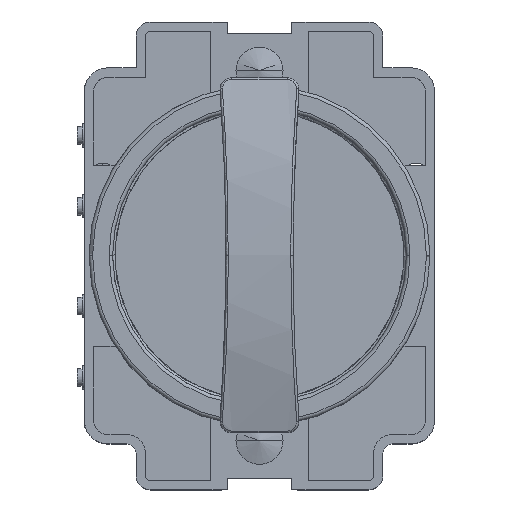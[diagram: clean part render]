
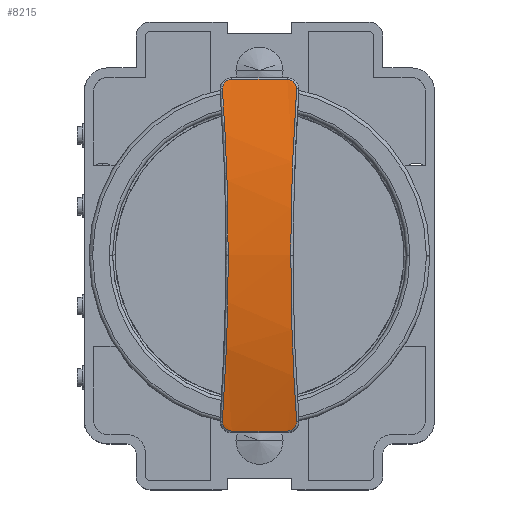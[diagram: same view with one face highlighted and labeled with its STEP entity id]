
A CAD part, top view. The second image highlights one B-rep face of the part: STEP entity #8215.
In plain terms, the highlighted cylindrical face has radius 51.954 mm (diameter 103.909 mm), a partial arc.
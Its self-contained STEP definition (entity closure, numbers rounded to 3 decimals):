
#5410=CARTESIAN_POINT('',(12.033,-14.159,
-3.16));
#5411=CARTESIAN_POINT('',(12.011,-14.237,
-3.158));
#5412=CARTESIAN_POINT('',(11.97,-14.383,
-3.137));
#5413=CARTESIAN_POINT('',(11.914,-14.574,
-3.053));
#5414=CARTESIAN_POINT('',(11.864,-14.743,
-2.917));
#5415=CARTESIAN_POINT('',(11.829,-14.862,
-2.755));
#5416=CARTESIAN_POINT('',(11.805,-14.941,
-2.558));
#5417=CARTESIAN_POINT('',(11.801,-14.957,
-2.427));
#5418=CARTESIAN_POINT('',(11.801,-14.957,
-2.36));
#5420=CARTESIAN_POINT('',(11.801,-14.957,2.36));
#5421=CARTESIAN_POINT('',(11.801,-14.957,2.408));
#5422=CARTESIAN_POINT('',(11.804,-14.946,2.522));
#5423=CARTESIAN_POINT('',(11.82,-14.893,2.692));
#5424=CARTESIAN_POINT('',(11.85,-14.791,2.86));
#5425=CARTESIAN_POINT('',(11.892,-14.651,2.998));
#5426=CARTESIAN_POINT('',(11.941,-14.48,3.1));
#5427=CARTESIAN_POINT('',(11.99,-14.312,3.15));
#5428=CARTESIAN_POINT('',(12.021,-14.203,3.16));
#5429=CARTESIAN_POINT('',(12.033,-14.16,3.16));
#5431=CARTESIAN_POINT('',(12.033,-14.16,3.16));
#5432=CARTESIAN_POINT('',(12.359,-13.01,3.078));
#5433=CARTESIAN_POINT('',(12.931,-10.688,2.934));
#5434=CARTESIAN_POINT('',(13.547,-7.153,2.779));
#5435=CARTESIAN_POINT('',(13.918,-3.584,2.684));
#5436=CARTESIAN_POINT('',(14.,-1.195,2.663));
#5437=CARTESIAN_POINT('',(14.,0.,2.662));
#5439=CARTESIAN_POINT('',(14.,0.,2.662));
#5440=CARTESIAN_POINT('',(14.,1.194,2.663));
#5441=CARTESIAN_POINT('',(13.918,3.584,2.685));
#5442=CARTESIAN_POINT('',(13.547,7.153,2.779));
#5443=CARTESIAN_POINT('',(12.931,10.688,2.935));
#5444=CARTESIAN_POINT('',(12.359,13.01,3.078));
#5445=CARTESIAN_POINT('',(12.033,14.159,3.16));
#5447=CARTESIAN_POINT('',(12.033,14.159,3.16));
#5448=CARTESIAN_POINT('',(12.011,14.237,3.158));
#5449=CARTESIAN_POINT('',(11.97,14.383,3.137));
#5450=CARTESIAN_POINT('',(11.914,14.574,3.053));
#5451=CARTESIAN_POINT('',(11.864,14.743,2.917));
#5452=CARTESIAN_POINT('',(11.829,14.862,2.755));
#5453=CARTESIAN_POINT('',(11.805,14.941,2.558));
#5454=CARTESIAN_POINT('',(11.801,14.957,2.427));
#5455=CARTESIAN_POINT('',(11.801,14.957,2.36));
#5457=CARTESIAN_POINT('',(11.801,14.957,-2.36));
#5458=CARTESIAN_POINT('',(11.801,14.957,-2.408));
#5459=CARTESIAN_POINT('',(11.804,14.946,-2.522));
#5460=CARTESIAN_POINT('',(11.82,14.893,-2.692));
#5461=CARTESIAN_POINT('',(11.85,14.791,-2.86));
#5462=CARTESIAN_POINT('',(11.892,14.651,-2.998));
#5463=CARTESIAN_POINT('',(11.941,14.48,-3.1));
#5464=CARTESIAN_POINT('',(11.99,14.312,-3.15));
#5465=CARTESIAN_POINT('',(12.021,14.203,-3.16));
#5466=CARTESIAN_POINT('',(12.033,14.16,-3.16));
#5468=CARTESIAN_POINT('',(12.033,14.16,-3.16));
#5469=CARTESIAN_POINT('',(12.359,13.01,-3.078));
#5470=CARTESIAN_POINT('',(12.931,10.688,-2.934));
#5471=CARTESIAN_POINT('',(13.547,7.153,-2.779));
#5472=CARTESIAN_POINT('',(13.918,3.584,-2.684));
#5473=CARTESIAN_POINT('',(14.,1.195,-2.663));
#5474=CARTESIAN_POINT('',(14.,0.,
-2.662));
#5476=CARTESIAN_POINT('',(14.,0.,
-2.662));
#5477=CARTESIAN_POINT('',(14.,-1.194,
-2.663));
#5478=CARTESIAN_POINT('',(13.918,-3.584,
-2.685));
#5479=CARTESIAN_POINT('',(13.547,-7.153,
-2.779));
#5480=CARTESIAN_POINT('',(12.931,-10.687,
-2.935));
#5481=CARTESIAN_POINT('',(12.359,-13.009,
-3.078));
#5482=CARTESIAN_POINT('',(12.033,-14.159,
-3.16));
#5523=DIRECTION('',(0.,0.,-1.));
#5524=VECTOR('',#5523,4.72);
#5525=CARTESIAN_POINT('',(11.801,-14.957,2.36));
#5526=LINE('',#5525,#5524);
#5621=DIRECTION('',(0.,0.,1.));
#5622=VECTOR('',#5621,4.72);
#5623=CARTESIAN_POINT('',(11.801,14.957,-2.36));
#5624=LINE('',#5623,#5622);
#7304=VERTEX_POINT('',#5476);
#7305=VERTEX_POINT('',#5482);
#7306=VERTEX_POINT('',#5418);
#7307=CARTESIAN_POINT('',(11.801,-14.957,2.36));
#7308=VERTEX_POINT('',#7307);
#7309=VERTEX_POINT('',#5429);
#7310=VERTEX_POINT('',#5437);
#7311=VERTEX_POINT('',#5445);
#7312=VERTEX_POINT('',#5455);
#7313=CARTESIAN_POINT('',(11.801,14.957,-2.36));
#7314=VERTEX_POINT('',#7313);
#7315=VERTEX_POINT('',#5466);
#8189=CARTESIAN_POINT('',(-37.954,0.,25.));
#8190=DIRECTION('',(0.,0.,1.));
#8191=DIRECTION('',(1.,0.,0.));
#8192=AXIS2_PLACEMENT_3D('',#8189,#8190,#8191);
#8193=CYLINDRICAL_SURFACE('',#8192,51.954);
#8195=ORIENTED_EDGE('',*,*,#8194,.T.);
#8197=ORIENTED_EDGE('',*,*,#8196,.F.);
#8199=ORIENTED_EDGE('',*,*,#8198,.T.);
#8201=ORIENTED_EDGE('',*,*,#8200,.T.);
#8203=ORIENTED_EDGE('',*,*,#8202,.T.);
#8205=ORIENTED_EDGE('',*,*,#8204,.T.);
#8207=ORIENTED_EDGE('',*,*,#8206,.F.);
#8209=ORIENTED_EDGE('',*,*,#8208,.T.);
#8211=ORIENTED_EDGE('',*,*,#8210,.T.);
#8212=ORIENTED_EDGE('',*,*,#8179,.T.);
#8213=EDGE_LOOP('',(#8195,#8197,#8199,#8201,#8203,#8205,#8207,#8209,#8211,
#8212));
#8214=FACE_OUTER_BOUND('',#8213,.F.);
#8215=ADVANCED_FACE('',(#8214),#8193,.T.);
#5419=B_SPLINE_CURVE_WITH_KNOTS('',3,(#5410,#5411,#5412,#5413,#5414,#5415,#5416,
#5417,#5418),.UNSPECIFIED.,.F.,.F.,(4,1,1,1,1,1,4),(0.,0.167,
0.333,0.5,0.667,0.833,1.),
.UNSPECIFIED.);
#5430=B_SPLINE_CURVE_WITH_KNOTS('',3,(#5420,#5421,#5422,#5423,#5424,#5425,#5426,
#5427,#5428,#5429),.UNSPECIFIED.,.F.,.F.,(4,1,1,1,1,1,1,4),(0.,
0.114,0.266,0.42,0.577,
0.736,0.895,1.),.UNSPECIFIED.);
#5438=B_SPLINE_CURVE_WITH_KNOTS('',3,(#5431,#5432,#5433,#5434,#5435,#5436,
#5437),.UNSPECIFIED.,.F.,.F.,(4,1,1,1,4),(0.,0.25,0.5,0.75,1.),
.UNSPECIFIED.);
#5446=B_SPLINE_CURVE_WITH_KNOTS('',3,(#5439,#5440,#5441,#5442,#5443,#5444,
#5445),.UNSPECIFIED.,.F.,.F.,(4,1,1,1,4),(0.,0.25,0.5,0.75,1.),
.UNSPECIFIED.);
#5456=B_SPLINE_CURVE_WITH_KNOTS('',3,(#5447,#5448,#5449,#5450,#5451,#5452,#5453,
#5454,#5455),.UNSPECIFIED.,.F.,.F.,(4,1,1,1,1,1,4),(0.,0.167,
0.333,0.5,0.667,0.833,1.),
.UNSPECIFIED.);
#5467=B_SPLINE_CURVE_WITH_KNOTS('',3,(#5457,#5458,#5459,#5460,#5461,#5462,#5463,
#5464,#5465,#5466),.UNSPECIFIED.,.F.,.F.,(4,1,1,1,1,1,1,4),(0.,
0.114,0.266,0.42,0.577,
0.736,0.895,1.),.UNSPECIFIED.);
#5475=B_SPLINE_CURVE_WITH_KNOTS('',3,(#5468,#5469,#5470,#5471,#5472,#5473,
#5474),.UNSPECIFIED.,.F.,.F.,(4,1,1,1,4),(0.,0.25,0.5,0.75,1.),
.UNSPECIFIED.);
#5483=B_SPLINE_CURVE_WITH_KNOTS('',3,(#5476,#5477,#5478,#5479,#5480,#5481,
#5482),.UNSPECIFIED.,.F.,.F.,(4,1,1,1,4),(0.,0.25,0.5,0.75,1.),
.UNSPECIFIED.);
#8179=EDGE_CURVE('',#7304,#7305,#5483,.T.);
#8194=EDGE_CURVE('',#7305,#7306,#5419,.T.);
#8196=EDGE_CURVE('',#7308,#7306,#5526,.T.);
#8198=EDGE_CURVE('',#7308,#7309,#5430,.T.);
#8200=EDGE_CURVE('',#7309,#7310,#5438,.T.);
#8202=EDGE_CURVE('',#7310,#7311,#5446,.T.);
#8204=EDGE_CURVE('',#7311,#7312,#5456,.T.);
#8206=EDGE_CURVE('',#7314,#7312,#5624,.T.);
#8208=EDGE_CURVE('',#7314,#7315,#5467,.T.);
#8210=EDGE_CURVE('',#7315,#7304,#5475,.T.);
